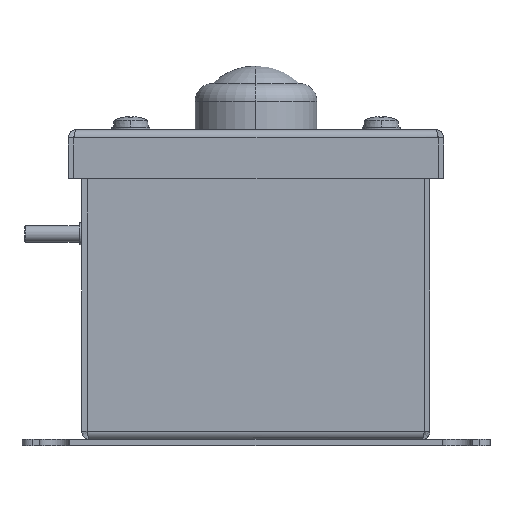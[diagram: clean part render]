
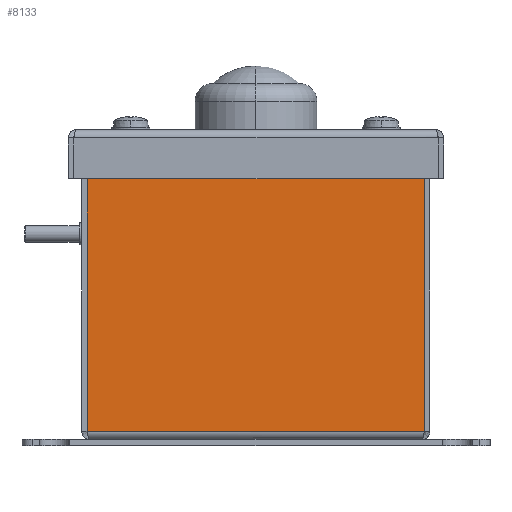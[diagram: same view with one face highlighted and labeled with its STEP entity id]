
A CAD part, front view. The second image highlights one B-rep face of the part: STEP entity #8133.
In plain terms, the highlighted planar face has unit normal (0, -1, 0).
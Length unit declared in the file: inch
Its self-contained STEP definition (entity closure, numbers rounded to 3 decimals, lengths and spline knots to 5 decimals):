
#7 = CARTESIAN_POINT ( 'NONE',  ( 0.96804, -2., 3.32955 ) ) ;
#749 = VECTOR ( 'NONE', #3274, 39.37008 ) ;
#769 = LINE ( 'NONE', #3288, #8372 ) ;
#855 = ORIENTED_EDGE ( 'NONE', *, *, #1302, .T. ) ;
#1073 = CARTESIAN_POINT ( 'NONE',  ( 1.93729, -2., 1.68715 ) ) ;
#1102 = EDGE_CURVE ( 'NONE', #10029, #13151, #769, .T. ) ;
#1167 = ORIENTED_EDGE ( 'NONE', *, *, #14725, .T. ) ;
#1302 = EDGE_CURVE ( 'NONE', #3290, #2407, #8325, .T. ) ;
#1441 = CARTESIAN_POINT ( 'NONE',  ( 0., -2., 3.32975 ) ) ;
#1694 = DIRECTION ( 'NONE',  ( 0., 0., 1. ) ) ;
#2032 = CARTESIAN_POINT ( 'NONE',  ( -0.96824, -2., 1.68715 ) ) ;
#2071 = ORIENTED_EDGE ( 'NONE', *, *, #1102, .F. ) ;
#2237 = ORIENTED_EDGE ( 'NONE', *, *, #9440, .F. ) ;
#2305 = DIRECTION ( 'NONE',  ( -1., 0., 0. ) ) ;
#2407 = VERTEX_POINT ( 'NONE', #3613 ) ;
#2419 = VECTOR ( 'NONE', #10933, 39.37008 ) ;
#2693 = VERTEX_POINT ( 'NONE', #8877 ) ;
#2767 = CARTESIAN_POINT ( 'NONE',  ( -1.93729, -2., 3.361 ) ) ;
#3096 = DIRECTION ( 'NONE',  ( 0., 0., 1. ) ) ;
#3146 = ORIENTED_EDGE ( 'NONE', *, *, #3545, .F. ) ;
#3218 = LINE ( 'NONE', #2032, #10967 ) ;
#3274 = DIRECTION ( 'NONE',  ( 0., 0., -1. ) ) ;
#3288 = CARTESIAN_POINT ( 'NONE',  ( 0., -2., 3.361 ) ) ;
#3290 = VERTEX_POINT ( 'NONE', #4965 ) ;
#3503 = CARTESIAN_POINT ( 'NONE',  ( -1.93729, -2., 0.09325 ) ) ;
#3545 = EDGE_CURVE ( 'NONE', #13151, #2693, #8208, .T. ) ;
#3613 = CARTESIAN_POINT ( 'NONE',  ( 0.96804, -2., 3.32975 ) ) ;
#3674 = VERTEX_POINT ( 'NONE', #10838 ) ;
#3740 = PLANE ( 'NONE',  #9429 ) ;
#3991 = VERTEX_POINT ( 'NONE', #2767 ) ;
#4289 = CARTESIAN_POINT ( 'NONE',  ( -1.93729, -2., 1.68715 ) ) ;
#4320 = CARTESIAN_POINT ( 'NONE',  ( 0.96824, -2., 3.361 ) ) ;
#4419 = VECTOR ( 'NONE', #2305, 39.37008 ) ;
#4930 = CARTESIAN_POINT ( 'NONE',  ( 0.96824, -2., 1.68715 ) ) ;
#4965 = CARTESIAN_POINT ( 'NONE',  ( 0.96804, -2., 3.32955 ) ) ;
#5025 = DIRECTION ( 'NONE',  ( -1., 0., 0. ) ) ;
#5380 = VECTOR ( 'NONE', #3096, 39.37008 ) ;
#5437 = EDGE_CURVE ( 'NONE', #14531, #12813, #13881, .T. ) ;
#5667 = ORIENTED_EDGE ( 'NONE', *, *, #7396, .F. ) ;
#5869 = DIRECTION ( 'NONE',  ( 1., 0., 0. ) ) ;
#6273 = LINE ( 'NONE', #13600, #6832 ) ;
#6320 = EDGE_CURVE ( 'NONE', #14636, #3674, #3218, .T. ) ;
#6385 = EDGE_CURVE ( 'NONE', #3991, #14636, #8231, .T. ) ;
#6578 = DIRECTION ( 'NONE',  ( 0., 0., -1. ) ) ;
#6612 = CARTESIAN_POINT ( 'NONE',  ( -0.96824, -2., 3.361 ) ) ;
#6832 = VECTOR ( 'NONE', #5025, 39.37008 ) ;
#7123 = CARTESIAN_POINT ( 'NONE',  ( 0., -2., 3.361 ) ) ;
#7200 = LINE ( 'NONE', #8454, #12143 ) ;
#7396 = EDGE_CURVE ( 'NONE', #14531, #2407, #12222, .T. ) ;
#7735 = CARTESIAN_POINT ( 'NONE',  ( -0.96804, -2., 3.361 ) ) ;
#8066 = VECTOR ( 'NONE', #14641, 39.37008 ) ;
#8133 = ADVANCED_FACE ( 'NONE', ( #9723 ), #3740, .F. ) ;
#8208 = LINE ( 'NONE', #1073, #749 ) ;
#8231 = LINE ( 'NONE', #7123, #2419 ) ;
#8243 = VECTOR ( 'NONE', #11307, 39.37008 ) ;
#8268 = LINE ( 'NONE', #10884, #4419 ) ;
#8325 = LINE ( 'NONE', #7, #5380 ) ;
#8372 = VECTOR ( 'NONE', #5869, 39.37008 ) ;
#8454 = CARTESIAN_POINT ( 'NONE',  ( 0., -2., 0.09325 ) ) ;
#8520 = DIRECTION ( 'NONE',  ( 0., 1., 0. ) ) ;
#8530 = ORIENTED_EDGE ( 'NONE', *, *, #6320, .F. ) ;
#8877 = CARTESIAN_POINT ( 'NONE',  ( 1.93729, -2., 0.09325 ) ) ;
#8939 = EDGE_CURVE ( 'NONE', #13407, #3290, #6273, .T. ) ;
#9429 = AXIS2_PLACEMENT_3D ( 'NONE', #11508, #8520, #12019 ) ;
#9440 = EDGE_CURVE ( 'NONE', #13407, #10029, #11223, .T. ) ;
#9661 = ORIENTED_EDGE ( 'NONE', *, *, #10585, .F. ) ;
#9723 = FACE_OUTER_BOUND ( 'NONE', #11068, .T. ) ;
#10029 = VERTEX_POINT ( 'NONE', #4320 ) ;
#10387 = VECTOR ( 'NONE', #12777, 39.37008 ) ;
#10585 = EDGE_CURVE ( 'NONE', #2693, #13025, #7200, .T. ) ;
#10827 = EDGE_CURVE ( 'NONE', #13025, #3991, #13818, .T. ) ;
#10838 = CARTESIAN_POINT ( 'NONE',  ( -0.96824, -2., 3.32955 ) ) ;
#10884 = CARTESIAN_POINT ( 'NONE',  ( -0.96804, -2., 3.32955 ) ) ;
#10933 = DIRECTION ( 'NONE',  ( 1., 0., 0. ) ) ;
#10967 = VECTOR ( 'NONE', #6578, 39.37008 ) ;
#11068 = EDGE_LOOP ( 'NONE', ( #13666, #855, #5667, #12785, #1167, #8530, #14656, #12414, #9661, #3146, #2071, #2237 ) ) ;
#11223 = LINE ( 'NONE', #4930, #12155 ) ;
#11307 = DIRECTION ( 'NONE',  ( 0., 0., -1. ) ) ;
#11508 = CARTESIAN_POINT ( 'NONE',  ( 0., -2., 1.68715 ) ) ;
#12019 = DIRECTION ( 'NONE',  ( 0., 0., 1. ) ) ;
#12032 = DIRECTION ( 'NONE',  ( -1., 0., 0. ) ) ;
#12143 = VECTOR ( 'NONE', #12032, 39.37008 ) ;
#12155 = VECTOR ( 'NONE', #1694, 39.37008 ) ;
#12222 = LINE ( 'NONE', #1441, #8066 ) ;
#12229 = CARTESIAN_POINT ( 'NONE',  ( 1.93729, -2., 3.361 ) ) ;
#12414 = ORIENTED_EDGE ( 'NONE', *, *, #10827, .F. ) ;
#12773 = CARTESIAN_POINT ( 'NONE',  ( -0.96804, -2., 3.32955 ) ) ;
#12777 = DIRECTION ( 'NONE',  ( 0., 0., 1. ) ) ;
#12785 = ORIENTED_EDGE ( 'NONE', *, *, #5437, .T. ) ;
#12813 = VERTEX_POINT ( 'NONE', #12773 ) ;
#13025 = VERTEX_POINT ( 'NONE', #3503 ) ;
#13151 = VERTEX_POINT ( 'NONE', #12229 ) ;
#13407 = VERTEX_POINT ( 'NONE', #14255 ) ;
#13600 = CARTESIAN_POINT ( 'NONE',  ( 0.96824, -2., 3.32955 ) ) ;
#13666 = ORIENTED_EDGE ( 'NONE', *, *, #8939, .T. ) ;
#13717 = CARTESIAN_POINT ( 'NONE',  ( -0.96804, -2., 3.32975 ) ) ;
#13818 = LINE ( 'NONE', #4289, #10387 ) ;
#13881 = LINE ( 'NONE', #7735, #8243 ) ;
#14255 = CARTESIAN_POINT ( 'NONE',  ( 0.96824, -2., 3.32955 ) ) ;
#14531 = VERTEX_POINT ( 'NONE', #13717 ) ;
#14636 = VERTEX_POINT ( 'NONE', #6612 ) ;
#14641 = DIRECTION ( 'NONE',  ( 1., 0., 0. ) ) ;
#14656 = ORIENTED_EDGE ( 'NONE', *, *, #6385, .F. ) ;
#14725 = EDGE_CURVE ( 'NONE', #12813, #3674, #8268, .T. ) ;
